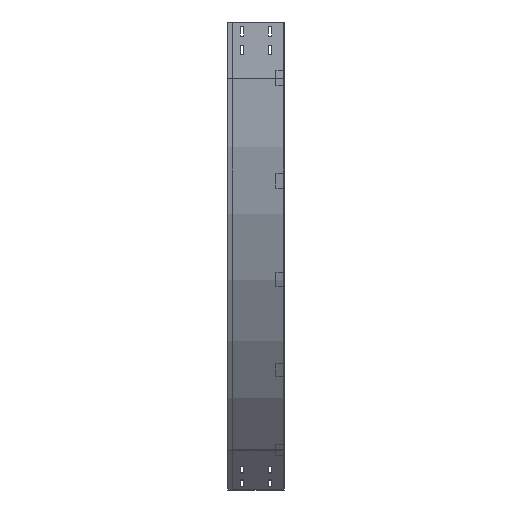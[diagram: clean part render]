
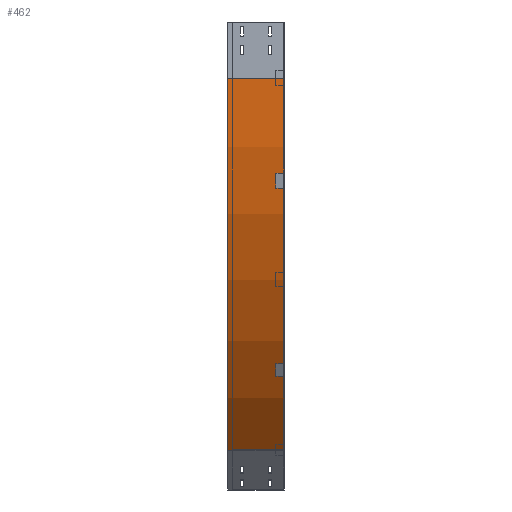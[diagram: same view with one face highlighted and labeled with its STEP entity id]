
A CAD part, left-side view. The second image highlights one B-rep face of the part: STEP entity #462.
In plain terms, the highlighted cylindrical face has radius 1400 mm (diameter 2800 mm), a partial arc.
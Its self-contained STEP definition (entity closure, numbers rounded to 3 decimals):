
#58 = ORIENTED_EDGE ( 'NONE', *, *, #2629, .T. ) ;
#59 = CIRCLE ( 'NONE', #1507, 1400. ) ;
#254 = DIRECTION ( 'NONE',  ( 0., -1., 0. ) ) ;
#405 = VERTEX_POINT ( 'NONE', #2639 ) ;
#462 = ADVANCED_FACE ( 'NONE', ( #1558 ), #677, .T. ) ;
#514 = EDGE_CURVE ( 'NONE', #3105, #405, #3601, .T. ) ;
#574 = DIRECTION ( 'NONE',  ( 0., -1., 0. ) ) ;
#599 = DIRECTION ( 'NONE',  ( 0., -1., 0. ) ) ;
#667 = EDGE_CURVE ( 'NONE', #3105, #921, #2651, .T. ) ;
#677 = CYLINDRICAL_SURFACE ( 'NONE', #1734, 1400. ) ;
#921 = VERTEX_POINT ( 'NONE', #3190 ) ;
#1189 = LINE ( 'NONE', #2676, #3450 ) ;
#1223 = CARTESIAN_POINT ( 'NONE',  ( 1400., 0., -150. ) ) ;
#1250 = VERTEX_POINT ( 'NONE', #3438 ) ;
#1463 = CARTESIAN_POINT ( 'NONE',  ( 0., 150., -150. ) ) ;
#1507 = AXIS2_PLACEMENT_3D ( 'NONE', #2039, #574, #2958 ) ;
#1558 = FACE_OUTER_BOUND ( 'NONE', #3232, .T. ) ;
#1714 = ORIENTED_EDGE ( 'NONE', *, *, #3798, .F. ) ;
#1734 = AXIS2_PLACEMENT_3D ( 'NONE', #1223, #3034, #2425 ) ;
#1794 = AXIS2_PLACEMENT_3D ( 'NONE', #2250, #3694, #3177 ) ;
#2039 = CARTESIAN_POINT ( 'NONE',  ( 1400., 0., -150. ) ) ;
#2250 = CARTESIAN_POINT ( 'NONE',  ( 1400., 150., -150. ) ) ;
#2425 = DIRECTION ( 'NONE',  ( 0., 0., -1. ) ) ;
#2605 = VECTOR ( 'NONE', #254, 1000. ) ;
#2613 = CARTESIAN_POINT ( 'NONE',  ( 0., 0., -150. ) ) ;
#2629 = EDGE_CURVE ( 'NONE', #405, #1250, #1189, .T. ) ;
#2639 = CARTESIAN_POINT ( 'NONE',  ( 410.051, 150., -1139.949 ) ) ;
#2651 = LINE ( 'NONE', #2613, #2605 ) ;
#2676 = CARTESIAN_POINT ( 'NONE',  ( 410.051, 0., -1139.949 ) ) ;
#2958 = DIRECTION ( 'NONE',  ( -1., 0., 0. ) ) ;
#3026 = ORIENTED_EDGE ( 'NONE', *, *, #514, .T. ) ;
#3034 = DIRECTION ( 'NONE',  ( 0., -1., 0. ) ) ;
#3101 = ORIENTED_EDGE ( 'NONE', *, *, #667, .F. ) ;
#3105 = VERTEX_POINT ( 'NONE', #1463 ) ;
#3177 = DIRECTION ( 'NONE',  ( -1., 0., 0. ) ) ;
#3190 = CARTESIAN_POINT ( 'NONE',  ( 0., 0., -150. ) ) ;
#3232 = EDGE_LOOP ( 'NONE', ( #1714, #3101, #3026, #58 ) ) ;
#3438 = CARTESIAN_POINT ( 'NONE',  ( 410.051, 0., -1139.949 ) ) ;
#3450 = VECTOR ( 'NONE', #599, 1000. ) ;
#3601 = CIRCLE ( 'NONE', #1794, 1400. ) ;
#3694 = DIRECTION ( 'NONE',  ( 0., -1., 0. ) ) ;
#3798 = EDGE_CURVE ( 'NONE', #921, #1250, #59, .T. ) ;
